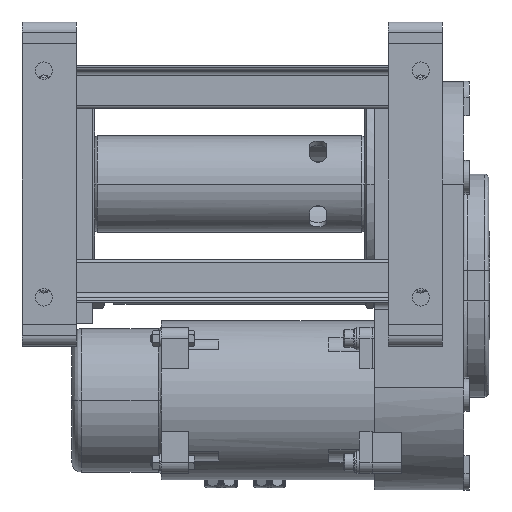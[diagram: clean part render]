
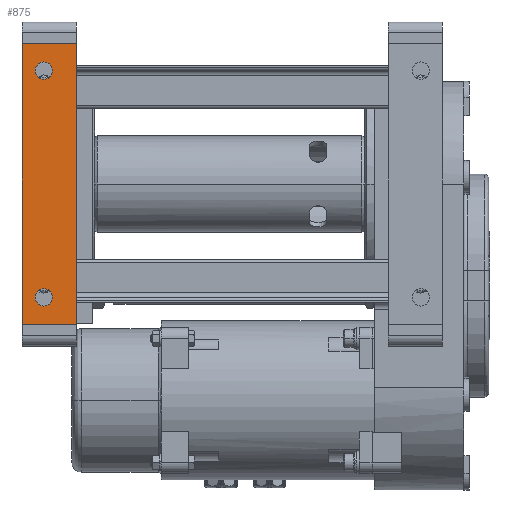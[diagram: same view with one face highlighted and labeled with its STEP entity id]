
A CAD part, front view. The second image highlights one B-rep face of the part: STEP entity #875.
In plain terms, the highlighted planar face has unit normal (0, -1, 0).
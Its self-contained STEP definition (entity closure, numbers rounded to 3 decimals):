
#875=ADVANCED_FACE('',(#8722,#8723,#8724),#8721,.F.);
#8721=PLANE('',#29084);
#8722=FACE_OUTER_BOUND('',#29085,.T.);
#8723=FACE_BOUND('',#29086,.T.);
#8724=FACE_BOUND('',#29087,.T.);
#29081=CARTESIAN_POINT('',(-453.179,-149.654,-1378.145));
#29082=DIRECTION('',(0.,1.,0.));
#29083=DIRECTION('',(0.,0.,-1.));
#29084=AXIS2_PLACEMENT_3D('',#29081,#29082,#29083);
#29085=EDGE_LOOP('',(#41888,#41889,#41890,#41891));
#29086=EDGE_LOOP('',(#41892,#41893));
#29087=EDGE_LOOP('',(#41894,#41895));
#41888=ORIENTED_EDGE('',*,*,#51358,.T.);
#41889=ORIENTED_EDGE('',*,*,#50988,.F.);
#41890=ORIENTED_EDGE('',*,*,#51359,.F.);
#41891=ORIENTED_EDGE('',*,*,#50956,.T.);
#41892=ORIENTED_EDGE('',*,*,#51360,.T.);
#41893=ORIENTED_EDGE('',*,*,#51361,.T.);
#41894=ORIENTED_EDGE('',*,*,#51362,.T.);
#41895=ORIENTED_EDGE('',*,*,#51363,.T.);
#50956=EDGE_CURVE('',#65742,#65735,#65743,.T.);
#50988=EDGE_CURVE('',#65956,#65963,#65964,.T.);
#51358=EDGE_CURVE('',#65735,#65963,#68425,.T.);
#51359=EDGE_CURVE('',#65742,#65956,#68431,.T.);
#51360=EDGE_CURVE('',#68437,#68438,#68439,.T.);
#51361=EDGE_CURVE('',#68438,#68437,#68445,.T.);
#51362=EDGE_CURVE('',#68451,#68452,#68453,.T.);
#51363=EDGE_CURVE('',#68452,#68451,#68459,.T.);
#65735=VERTEX_POINT('',#98579);
#65742=VERTEX_POINT('',#98583);
#65743=LINE('',#98584,#98585);
#65956=VERTEX_POINT('',#98712);
#65963=VERTEX_POINT('',#98716);
#65964=LINE('',#98717,#98718);
#68425=LINE('',#100151,#100152);
#68431=LINE('',#100154,#100155);
#68437=VERTEX_POINT('',#100157);
#68438=VERTEX_POINT('',#100158);
#68439=CIRCLE('',#100162,8.);
#68445=CIRCLE('',#100166,8.);
#68451=VERTEX_POINT('',#100167);
#68452=VERTEX_POINT('',#100168);
#68453=CIRCLE('',#100172,8.);
#68459=CIRCLE('',#100176,8.);
#98579=CARTESIAN_POINT('',(-508.179,-149.654,-1648.145));
#98583=CARTESIAN_POINT('',(-508.179,-149.654,-1388.145));
#98584=CARTESIAN_POINT('',(-508.179,-149.654,-1388.145));
#98585=VECTOR('',#98586,260.);
#98586=DIRECTION('',(0.,0.,-1.));
#98712=CARTESIAN_POINT('',(-458.179,-149.654,-1388.145));
#98716=CARTESIAN_POINT('',(-458.179,-149.654,-1648.145));
#98717=CARTESIAN_POINT('',(-458.179,-149.654,-1388.145));
#98718=VECTOR('',#98719,260.);
#98719=DIRECTION('',(0.,0.,-1.));
#100151=CARTESIAN_POINT('',(-508.179,-149.654,-1648.145));
#100152=VECTOR('',#100153,50.);
#100153=DIRECTION('',(1.,0.,0.));
#100154=CARTESIAN_POINT('',(-508.179,-149.654,-1388.145));
#100155=VECTOR('',#100156,50.);
#100156=DIRECTION('',(1.,0.,0.));
#100157=CARTESIAN_POINT('',(-488.179,-149.654,-1421.145));
#100158=CARTESIAN_POINT('',(-488.179,-149.654,-1405.145));
#100159=CARTESIAN_POINT('',(-488.179,-149.654,-1413.145));
#100160=DIRECTION('',(0.,1.,0.));
#100161=DIRECTION('',(0.,0.,-1.));
#100162=AXIS2_PLACEMENT_3D('',#100159,#100160,#100161);
#100163=CARTESIAN_POINT('',(-488.179,-149.654,-1413.145));
#100164=DIRECTION('',(0.,1.,0.));
#100165=DIRECTION('',(0.,0.,-1.));
#100166=AXIS2_PLACEMENT_3D('',#100163,#100164,#100165);
#100167=CARTESIAN_POINT('',(-488.179,-149.654,-1631.145));
#100168=CARTESIAN_POINT('',(-488.179,-149.654,-1615.145));
#100169=CARTESIAN_POINT('',(-488.179,-149.654,-1623.145));
#100170=DIRECTION('',(0.,1.,0.));
#100171=DIRECTION('',(0.,0.,-1.));
#100172=AXIS2_PLACEMENT_3D('',#100169,#100170,#100171);
#100173=CARTESIAN_POINT('',(-488.179,-149.654,-1623.145));
#100174=DIRECTION('',(0.,1.,0.));
#100175=DIRECTION('',(0.,0.,-1.));
#100176=AXIS2_PLACEMENT_3D('',#100173,#100174,#100175);
